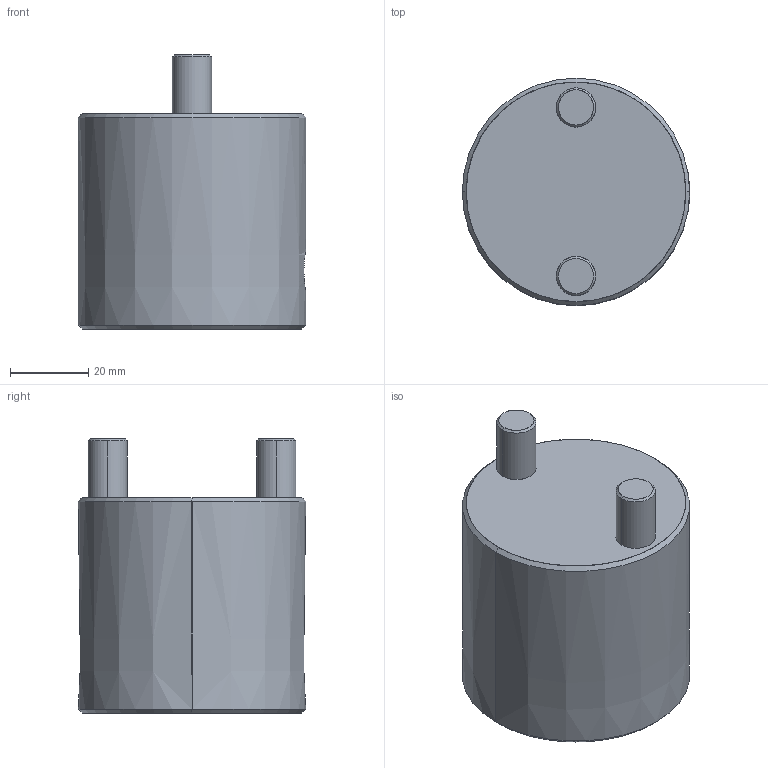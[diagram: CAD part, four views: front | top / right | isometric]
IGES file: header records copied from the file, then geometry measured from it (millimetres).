
Start section: SolidWorks IGES file using analytic representation for surfaces
Global section: file name: D:\Current\W1\Data\CS0730\CS0730.IGS; native system: SolidWorks 2017; preprocessor: SolidWorks 2017; author: Ravi Kalvai; date: 231208.140156; units: millimetre
Bounding box: 58 x 58 x 70 mm (x, y, z)
Surface area: 20659.7 mm2 (no closed solid volume)
Topology: 0 solids, 0 shells, 23 faces, 618 edges, 618 vertices
Faces by surface type: revolution 18, bspline 5
